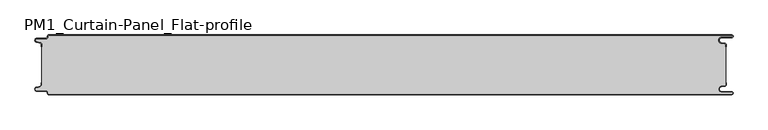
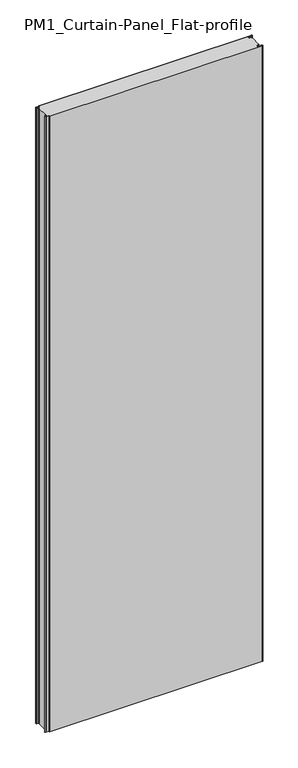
"""IFC4 building model written with IfcOpenShell, lengths in millimetres: plate geometry, PM1_Curtain-Panel_Flat-profile : ACH_PM1_Stone-wool-Panel_100M."""

from ifc_helpers import new_model, si_unit, point, frame_2d, origin, origin_with_axes, place, context, project, spatial, polyline, circle_curve, trimmed, segment, composite_curve, outline, extrude, source, transform, mapped, element, save


def pm1_curtain_panel_flat_profile_8b054a2c(model_context):
    return source(origin(), model_context, "Body", "SweptSolid", [
        extrude(outline(composite_curve([segment(polyline([(-562.4, 0.0), (583.1, 0.0)]), True, "CONTINUOUS"), segment(trimmed(circle_curve(frame_2d((583.1, -2.5)), 2.5), [point((583.1, 0.0))], [point((583.1, -5.0))], False, "CARTESIAN"), True, "CONTINUOUS"), segment(polyline([(583.1, -5.0), (566.1, -5.0)]), True, "CONTINUOUS"), segment(trimmed(circle_curve(frame_2d((566.1, -9.0)), 4.0), [point((566.1, -5.0))], [point((565.4054075, -12.939231))], True, "CARTESIAN"), True, "CONTINUOUS"), segment(polyline([(565.4054075, -12.939231), (571.8514851, -14.075848)]), True, "CONTINUOUS"), segment(trimmed(circle_curve(frame_2d((571.4, -16.636348)), 2.6), [point((571.8514851, -14.075848))], [point((574.0, -16.636348))], False, "CARTESIAN"), True, "CONTINUOUS"), segment(polyline([(574.0, -16.636348), (574.0, -20.0), (573.2, -20.0), (573.2, -16.636348)]), True, "CONTINUOUS"), segment(trimmed(circle_curve(frame_2d((571.4, -16.636348)), 1.8), [point((573.2, -16.636348))], [point((571.7125666, -14.863694))], True, "CARTESIAN"), True, "CONTINUOUS"), segment(polyline([(571.7125666, -14.863694), (565.266489, -13.7270771)]), True, "CONTINUOUS"), segment(trimmed(circle_curve(frame_2d((566.1, -9.0)), 4.8), [point((565.266489, -13.7270771))], [point((566.1, -4.2))], False, "CARTESIAN"), True, "CONTINUOUS"), segment(polyline([(566.1, -4.2), (583.1, -4.2)]), True, "CONTINUOUS"), segment(trimmed(circle_curve(frame_2d((583.1, -2.5)), 1.7), [point((583.1, -4.2))], [point((583.1, -0.8))], True, "CARTESIAN"), True, "CONTINUOUS"), segment(polyline([(583.1, -0.8), (-562.4, -0.8)]), True, "CONTINUOUS"), segment(trimmed(circle_curve(frame_2d((-562.4, -2.0)), 1.2), [point((-562.4, -0.8))], [point((-563.6, -2.0))], True, "CARTESIAN"), True, "CONTINUOUS"), segment(polyline([(-563.6, -2.0), (-563.6, -3.4)]), True, "CONTINUOUS"), segment(trimmed(circle_curve(frame_2d((-566.4, -3.4)), 2.8), [point((-563.6, -3.4))], [point((-566.4, -6.2))], False, "CARTESIAN"), True, "CONTINUOUS"), segment(polyline([(-566.4, -6.2), (-581.9, -6.2)]), True, "CONTINUOUS"), segment(trimmed(circle_curve(frame_2d((-581.9, -9.0)), 2.8), [point((-581.9, -6.2))], [point((-582.529863, -11.7282362))], True, "CARTESIAN"), True, "CONTINUOUS"), segment(polyline([(-582.529863, -11.7282362), (-576.370137, -13.150321)]), True, "CONTINUOUS"), segment(trimmed(circle_curve(frame_2d((-577.0, -15.878557)), 2.8), [point((-576.370137, -13.150321))], [point((-574.2, -15.878557))], False, "CARTESIAN"), True, "CONTINUOUS"), segment(polyline([(-574.2, -15.878557), (-574.2, -20.0), (-575.0, -20.0), (-575.0, -15.878557)]), True, "CONTINUOUS"), segment(trimmed(circle_curve(frame_2d((-577.0, -15.878557)), 2.0), [point((-575.0, -15.878557))], [point((-576.5500978, -13.9298169))], True, "CARTESIAN"), True, "CONTINUOUS"), segment(polyline([(-576.5500978, -13.9298169), (-582.7098239, -12.507732)]), True, "CONTINUOUS"), segment(trimmed(circle_curve(frame_2d((-581.9, -9.0)), 3.6), [point((-582.7098239, -12.507732))], [point((-581.9, -5.4))], False, "CARTESIAN"), True, "CONTINUOUS"), segment(polyline([(-581.9, -5.4), (-566.4, -5.4)]), True, "CONTINUOUS"), segment(trimmed(circle_curve(frame_2d((-566.4, -3.4)), 2.0), [point((-566.4, -5.4))], [point((-564.4, -3.4))], True, "CARTESIAN"), True, "CONTINUOUS"), segment(polyline([(-564.4, -3.4), (-564.4, -2.0)]), True, "CONTINUOUS"), segment(trimmed(circle_curve(frame_2d((-562.4, -2.0)), 2.0), [point((-564.4, -2.0))], [point((-562.4, 0.0))], False, "CARTESIAN"), True, "CONTINUOUS")], self_intersect=False)), origin_with_axes(), (0.0, 0.0, 1.0), 3500.0),
        extrude(outline(composite_curve([segment(polyline([(-574.2, -84.1214426), (-574.2, -15.8785573)]), True, "CONTINUOUS"), segment(trimmed(circle_curve(frame_2d((-577.0, -15.8785573)), 2.8), [point((-574.2, -15.8785573))], [point((-576.370137, -13.1503212))], True, "CARTESIAN"), True, "CONTINUOUS"), segment(polyline([(-576.370137, -13.1503212), (-582.5298631, -11.7282362)]), True, "CONTINUOUS"), segment(trimmed(circle_curve(frame_2d((-581.9, -9.0)), 2.8), [point((-582.5298631, -11.7282362))], [point((-581.9, -6.2))], False, "CARTESIAN"), True, "CONTINUOUS"), segment(polyline([(-581.9, -6.2), (-566.4000001, -6.2)]), True, "CONTINUOUS"), segment(trimmed(circle_curve(frame_2d((-566.4000001, -3.4)), 2.8), [point((-566.4000001, -6.2))], [point((-563.6000001, -3.4))], True, "CARTESIAN"), True, "CONTINUOUS"), segment(polyline([(-563.6000001, -3.4), (-563.6000001, -2.0)]), True, "CONTINUOUS"), segment(trimmed(circle_curve(frame_2d((-562.4000001, -2.0)), 1.2), [point((-563.6000001, -2.0))], [point((-562.4000001, -0.8))], False, "CARTESIAN"), True, "CONTINUOUS"), segment(polyline([(-562.4000001, -0.8), (583.1, -0.8)]), True, "CONTINUOUS"), segment(trimmed(circle_curve(frame_2d((583.1, -2.5)), 1.7), [point((583.1, -0.8))], [point((583.1, -4.2))], False, "CARTESIAN"), True, "CONTINUOUS"), segment(polyline([(583.1, -4.2), (566.1, -4.2)]), True, "CONTINUOUS"), segment(trimmed(circle_curve(frame_2d((566.1, -9.0)), 4.8), [point((566.1, -4.2))], [point((565.2664883, -13.7270771))], True, "CARTESIAN"), True, "CONTINUOUS"), segment(polyline([(565.2664883, -13.7270771), (571.7125668, -14.8636953)]), True, "CONTINUOUS"), segment(trimmed(circle_curve(frame_2d((571.4, -16.6363492)), 1.8), [point((571.7125668, -14.8636953))], [point((573.2, -16.6363492))], False, "CARTESIAN"), True, "CONTINUOUS"), segment(polyline([(573.2, -16.6363492), (573.2, -83.3636508)]), True, "CONTINUOUS"), segment(trimmed(circle_curve(frame_2d((571.4, -83.3636508)), 1.8), [point((573.2, -83.3636508))], [point((571.7125668, -85.1363047))], False, "CARTESIAN"), True, "CONTINUOUS"), segment(polyline([(571.7125668, -85.1363047), (565.2664883, -86.2729229)]), True, "CONTINUOUS"), segment(trimmed(circle_curve(frame_2d((566.1, -91.0)), 4.8), [point((565.2664883, -86.2729229))], [point((566.1, -95.8))], True, "CARTESIAN"), True, "CONTINUOUS"), segment(polyline([(566.1, -95.8), (583.1, -95.8)]), True, "CONTINUOUS"), segment(trimmed(circle_curve(frame_2d((583.1, -97.5)), 1.7), [point((583.1, -95.8))], [point((583.1, -99.2))], False, "CARTESIAN"), True, "CONTINUOUS"), segment(polyline([(583.1, -99.2), (-562.4000001, -99.2)]), True, "CONTINUOUS"), segment(trimmed(circle_curve(frame_2d((-562.4000001, -98.0)), 1.2), [point((-562.4000001, -99.2))], [point((-563.6000001, -98.0))], False, "CARTESIAN"), True, "CONTINUOUS"), segment(polyline([(-563.6000001, -98.0), (-563.6000001, -96.6)]), True, "CONTINUOUS"), segment(trimmed(circle_curve(frame_2d((-566.4000001, -96.6)), 2.8), [point((-563.6000001, -96.6))], [point((-566.4000001, -93.8))], True, "CARTESIAN"), True, "CONTINUOUS"), segment(polyline([(-566.4000001, -93.8), (-581.9, -93.8)]), True, "CONTINUOUS"), segment(trimmed(circle_curve(frame_2d((-581.9, -91.0)), 2.8), [point((-581.9, -93.8))], [point((-582.5298631, -88.2717638))], False, "CARTESIAN"), True, "CONTINUOUS"), segment(polyline([(-582.5298631, -88.2717638), (-576.370137, -86.8496788)]), True, "CONTINUOUS"), segment(trimmed(circle_curve(frame_2d((-577.0, -84.1214426)), 2.8), [point((-576.370137, -86.8496788))], [point((-574.2, -84.1214426))], True, "CARTESIAN"), True, "CONTINUOUS")], self_intersect=False)), origin_with_axes(), (0.0, 0.0, 1.0), 3500.0),
        extrude(outline(composite_curve([segment(polyline([(583.1, -100.0), (-562.4, -100.0)]), True, "CONTINUOUS"), segment(trimmed(circle_curve(frame_2d((-562.4, -98.0)), 2.0), [point((-562.4, -100.0))], [point((-564.4, -98.0))], False, "CARTESIAN"), True, "CONTINUOUS"), segment(polyline([(-564.4, -98.0), (-564.4, -96.6)]), True, "CONTINUOUS"), segment(trimmed(circle_curve(frame_2d((-566.4, -96.6)), 2.0), [point((-564.4, -96.6))], [point((-566.4, -94.6))], True, "CARTESIAN"), True, "CONTINUOUS"), segment(polyline([(-566.4, -94.6), (-581.9, -94.6)]), True, "CONTINUOUS"), segment(trimmed(circle_curve(frame_2d((-581.9, -91.0)), 3.6), [point((-581.9, -94.6))], [point((-582.7098239, -87.4922678))], False, "CARTESIAN"), True, "CONTINUOUS"), segment(polyline([(-582.7098239, -87.4922678), (-576.5500979, -86.070183)]), True, "CONTINUOUS"), segment(trimmed(circle_curve(frame_2d((-577.0, -84.121443)), 2.0), [point((-576.5500979, -86.070183))], [point((-575.0, -84.121443))], True, "CARTESIAN"), True, "CONTINUOUS"), segment(polyline([(-575.0, -84.121443), (-575.0, -80.0), (-574.2, -80.0), (-574.2, -84.121443)]), True, "CONTINUOUS"), segment(trimmed(circle_curve(frame_2d((-577.0, -84.121443)), 2.8), [point((-574.2, -84.121443))], [point((-576.370137, -86.8496792))], False, "CARTESIAN"), True, "CONTINUOUS"), segment(polyline([(-576.370137, -86.8496792), (-582.529863, -88.271764)]), True, "CONTINUOUS"), segment(trimmed(circle_curve(frame_2d((-581.9, -91.0)), 2.8), [point((-582.529863, -88.271764))], [point((-581.9, -93.8))], True, "CARTESIAN"), True, "CONTINUOUS"), segment(polyline([(-581.9, -93.8), (-566.4, -93.8)]), True, "CONTINUOUS"), segment(trimmed(circle_curve(frame_2d((-566.4, -96.6)), 2.8), [point((-566.4, -93.8))], [point((-563.6, -96.6))], False, "CARTESIAN"), True, "CONTINUOUS"), segment(polyline([(-563.6, -96.6), (-563.6, -98.0)]), True, "CONTINUOUS"), segment(trimmed(circle_curve(frame_2d((-562.4, -98.0)), 1.2), [point((-563.6, -98.0))], [point((-562.4, -99.2))], True, "CARTESIAN"), True, "CONTINUOUS"), segment(polyline([(-562.4, -99.2), (583.1, -99.2)]), True, "CONTINUOUS"), segment(trimmed(circle_curve(frame_2d((583.1, -97.5)), 1.7), [point((583.1, -99.2))], [point((583.1, -95.8))], True, "CARTESIAN"), True, "CONTINUOUS"), segment(polyline([(583.1, -95.8), (566.1, -95.8)]), True, "CONTINUOUS"), segment(trimmed(circle_curve(frame_2d((566.1, -91.0)), 4.8), [point((566.1, -95.8))], [point((565.266489, -86.2729227))], False, "CARTESIAN"), True, "CONTINUOUS"), segment(polyline([(565.266489, -86.2729227), (571.7125666, -85.1363058)]), True, "CONTINUOUS"), segment(trimmed(circle_curve(frame_2d((571.4, -83.363652)), 1.8), [point((571.7125666, -85.1363058))], [point((573.2, -83.363652))], True, "CARTESIAN"), True, "CONTINUOUS"), segment(polyline([(573.2, -83.363652), (573.2, -80.0), (574.0, -80.0), (574.0, -83.363652)]), True, "CONTINUOUS"), segment(trimmed(circle_curve(frame_2d((571.4, -83.363652)), 2.6), [point((574.0, -83.363652))], [point((571.8514851, -85.9241522))], False, "CARTESIAN"), True, "CONTINUOUS"), segment(polyline([(571.8514851, -85.9241522), (565.4054075, -87.0607691)]), True, "CONTINUOUS"), segment(trimmed(circle_curve(frame_2d((566.1, -91.0)), 4.0), [point((565.4054075, -87.0607691))], [point((566.1, -95.0))], True, "CARTESIAN"), True, "CONTINUOUS"), segment(polyline([(566.1, -95.0), (583.1, -95.0)]), True, "CONTINUOUS"), segment(trimmed(circle_curve(frame_2d((583.1, -97.5)), 2.5), [point((583.1, -95.0))], [point((583.1, -100.0))], False, "CARTESIAN"), True, "CONTINUOUS")], self_intersect=False)), origin_with_axes(), (0.0, 0.0, 1.0), 3500.0),
    ])


if __name__ == "__main__":
    model = new_model("IFC4")
    model_context = context("Model", 3, world=origin())
    ifc_project = project(units=[si_unit("LENGTHUNIT", "METRE", prefix="MILLI")], contexts=[model_context])
    site = spatial("IfcSite", under=ifc_project)
    building = spatial("IfcBuilding", under=site)
    placement = place(None, origin())
    pm1_curtain_panel_flat_profile_shape = pm1_curtain_panel_flat_profile_8b054a2c(model_context)
    element("IfcPlate", 1, ObjectType="PM1_Curtain-Panel_Flat-profile : ACH_PM1_Stone-wool-Panel_100M", at=placement, inside=building, context=model_context, shape_type="MappedRepresentation", body=[
        mapped(pm1_curtain_panel_flat_profile_shape, transform((0.0, 0.0, 0.0), x_axis=(1.0, 0.0, 0.0), y_axis=(0.0, 1.0, 0.0), z_axis=(0.0, 0.0, 1.0))),
    ])
    save(model, "model.ifc")
